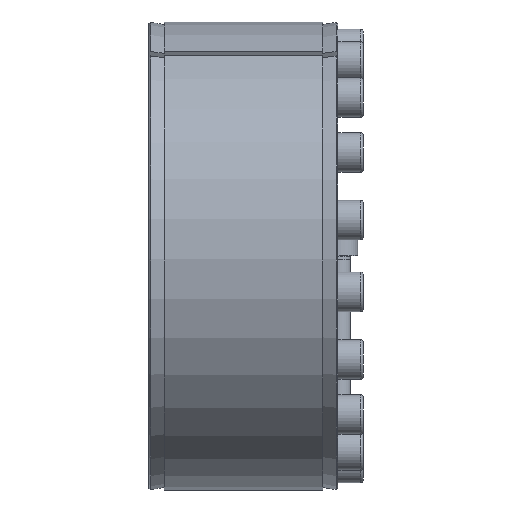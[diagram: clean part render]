
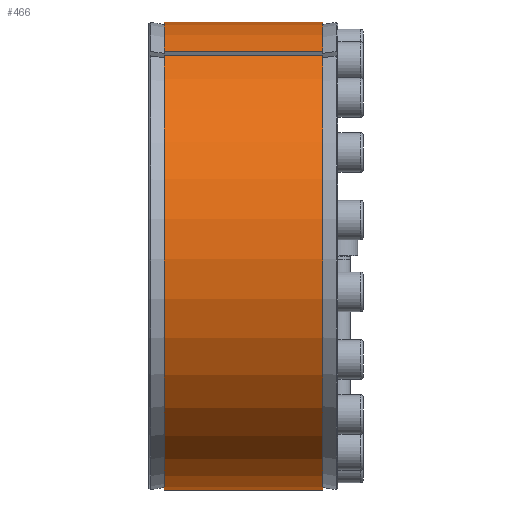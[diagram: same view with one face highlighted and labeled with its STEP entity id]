
A CAD part, left-side view. The second image highlights one B-rep face of the part: STEP entity #466.
In plain terms, the highlighted cylindrical face has radius 130 mm (diameter 260 mm), a partial arc.
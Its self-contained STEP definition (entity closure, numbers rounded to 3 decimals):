
#466 = ADVANCED_FACE( '', ( #826 ), #827, .T. );
#826 = FACE_OUTER_BOUND( '', #1208, .T. );
#827 = CYLINDRICAL_SURFACE( '', #1209, 130. );
#1208 = EDGE_LOOP( '', ( #1888, #1889, #1890, #1891 ) );
#1209 = AXIS2_PLACEMENT_3D( '', #1892, #1893, #1894 );
#1888 = ORIENTED_EDGE( '', *, *, #2538, .T. );
#1889 = ORIENTED_EDGE( '', *, *, #2499, .T. );
#1890 = ORIENTED_EDGE( '', *, *, #2564, .F. );
#1891 = ORIENTED_EDGE( '', *, *, #2660, .T. );
#1892 = CARTESIAN_POINT( '', ( 0., -60., 0. ) );
#1893 = DIRECTION( '', ( 0., 1., 0. ) );
#1894 = DIRECTION( '', ( 0., 0., -1. ) );
#2499 = EDGE_CURVE( '', #2852, #2850, #2853, .T. );
#2538 = EDGE_CURVE( '', #2924, #2852, #2925, .T. );
#2564 = EDGE_CURVE( '', #2972, #2850, #2973, .T. );
#2660 = EDGE_CURVE( '', #2972, #2924, #3136, .F. );
#2850 = VERTEX_POINT( '', #3349 );
#2852 = VERTEX_POINT( '', #3352 );
#2853 = LINE( '', #3353, #3354 );
#2924 = VERTEX_POINT( '', #3450 );
#2925 = CIRCLE( '', #3451, 130. );
#2972 = VERTEX_POINT( '', #3506 );
#2973 = CIRCLE( '', #3507, 130. );
#3136 = LINE( '', #4134, #4135 );
#3349 = CARTESIAN_POINT( '', ( -62.823, 8.5, 113.812 ) );
#3352 = CARTESIAN_POINT( '', ( -62.823, 96.5, 113.812 ) );
#3353 = CARTESIAN_POINT( '', ( -62.823, -60., 113.812 ) );
#3354 = VECTOR( '', #4296, 1000. );
#3450 = CARTESIAN_POINT( '', ( -67.153, 96.5, 111.312 ) );
#3451 = AXIS2_PLACEMENT_3D( '', #4382, #4383, #4384 );
#3506 = CARTESIAN_POINT( '', ( -67.153, 8.5, 111.312 ) );
#3507 = AXIS2_PLACEMENT_3D( '', #4450, #4451, #4452 );
#4134 = CARTESIAN_POINT( '', ( -67.153, -60., 111.312 ) );
#4135 = VECTOR( '', #4665, 1000. );
#4296 = DIRECTION( '', ( 0., -1., 0. ) );
#4382 = CARTESIAN_POINT( '', ( 0., 96.5, 0. ) );
#4383 = DIRECTION( '', ( 0., -1., 0. ) );
#4384 = DIRECTION( '', ( 0., 0., -1. ) );
#4450 = CARTESIAN_POINT( '', ( 0., 8.5, 0. ) );
#4451 = DIRECTION( '', ( 0., -1., 0. ) );
#4452 = DIRECTION( '', ( 0., 0., -1. ) );
#4665 = DIRECTION( '', ( 0., -1., 0. ) );
